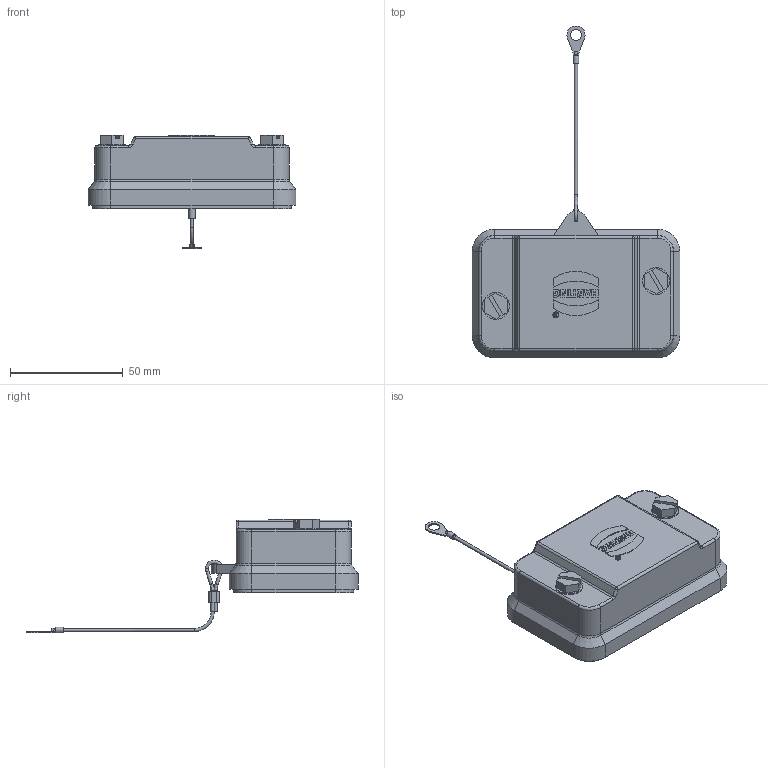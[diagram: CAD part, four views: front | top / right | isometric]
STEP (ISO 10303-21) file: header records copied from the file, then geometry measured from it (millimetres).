
FILE_DESCRIPTION(/* description */ (''),/* implementation_level */ '2;1');
FILE_NAME(/* name */ '100724168ugm000_d.stp',/* time_stamp */ '2022-10-17T13:51:56+02:00',/* author */ (''),/* organization */ (''),/* preprocessor_version */ 'ST-DEVELOPER v16.7',/* originating_system */ 'SIEMENS PLM Software NX 1911',/* authorisation */ '');
FILE_SCHEMA (('AUTOMOTIVE_DESIGN { 1 0 10303 214 3 1 1 1 }'));
Length unit declared in the file: millimetre
Products named in the file (1): 100724168ugm000_d
Bounding box: 92 x 146.99 x 50.25 mm (x, y, z)
Volume: 46825.8 mm3; surface area: 28668.3 mm2
Topology: 1 solids, 1 shells, 597 faces, 1524 edges, 923 vertices
Faces by surface type: plane 344, cylinder 140, sphere 40, bspline 33, cone 20, torus 20
Full cylindrical faces by diameter (mm): 2.2 x1, 2.5 x1, 2.6 x1, 5 x1, 5.3 x2, 6 x2, 12 x2
Entity records: 28042 total; most frequent: CARTESIAN_POINT 9802, ORIENTED_EDGE 2888, DIRECTION 2867, EDGE_CURVE 1444, LINE 1057, VECTOR 1057, VERTEX_POINT 913, AXIS2_PLACEMENT_3D 905
